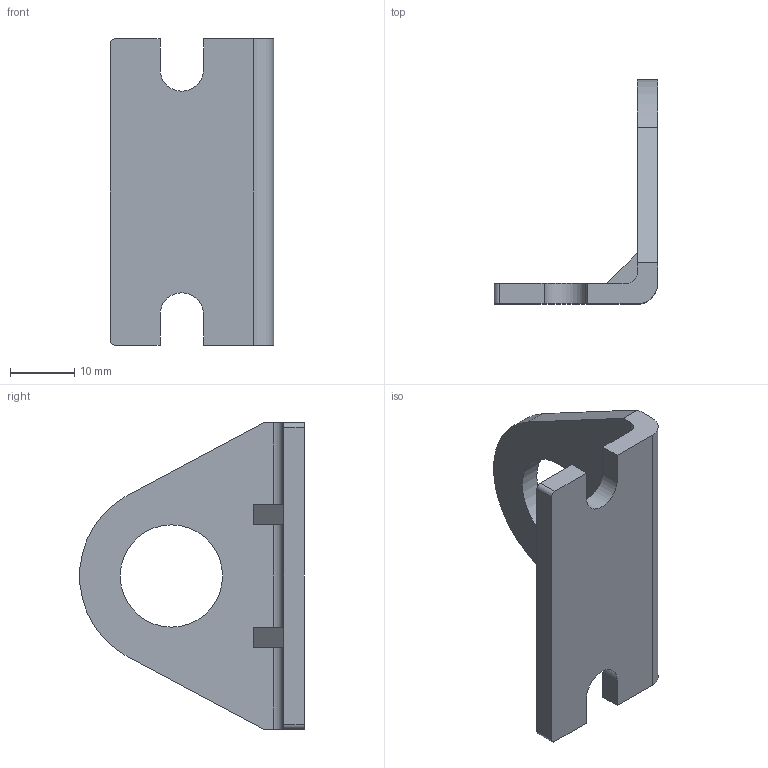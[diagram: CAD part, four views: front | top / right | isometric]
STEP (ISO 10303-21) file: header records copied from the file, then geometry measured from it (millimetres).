
FILE_DESCRIPTION((''),'2;1');
FILE_NAME('M117005','2020-03-06T13:40:48',('MeFernandez'),('ASCO Numatics'),'CREO PARAMETRIC BY PTC INC, 2018190','CREO PARAMETRIC BY PTC INC, 2018190','');
FILE_SCHEMA(('CONFIG_CONTROL_DESIGN'));
Length unit declared in the file: inch
Products named in the file (1): M117005
Bounding box: 25.4 x 34.88 x 47.62 mm (x, y, z)
Volume: 6223.6 mm3; surface area: 4678.5 mm2
Topology: 1 solids, 1 shells, 32 faces, 90 edges, 60 vertices
Faces by surface type: plane 21, cylinder 11
Entity records: 1080 total; most frequent: CARTESIAN_POINT 182, ORIENTED_EDGE 180, DIRECTION 176, EDGE_CURVE 90, VECTOR 68, LINE 68, VERTEX_POINT 60, AXIS2_PLACEMENT_3D 54
